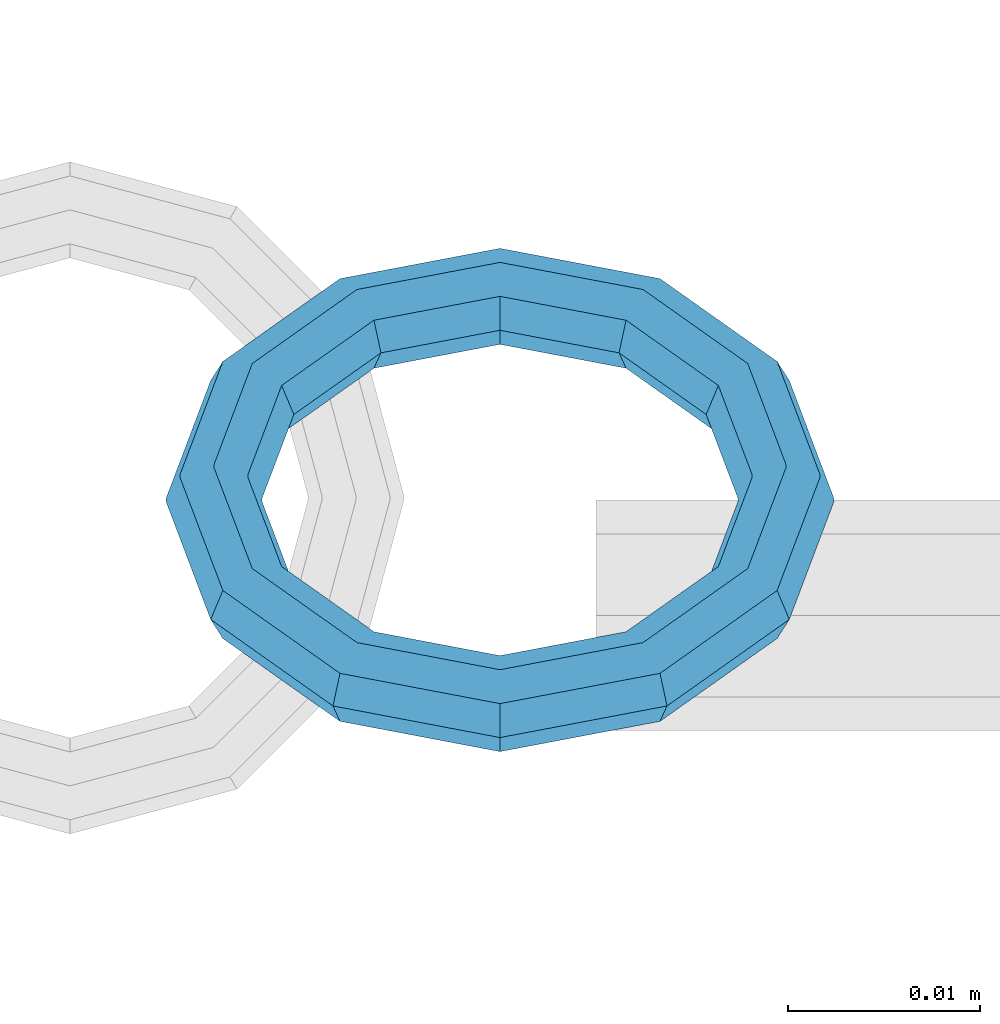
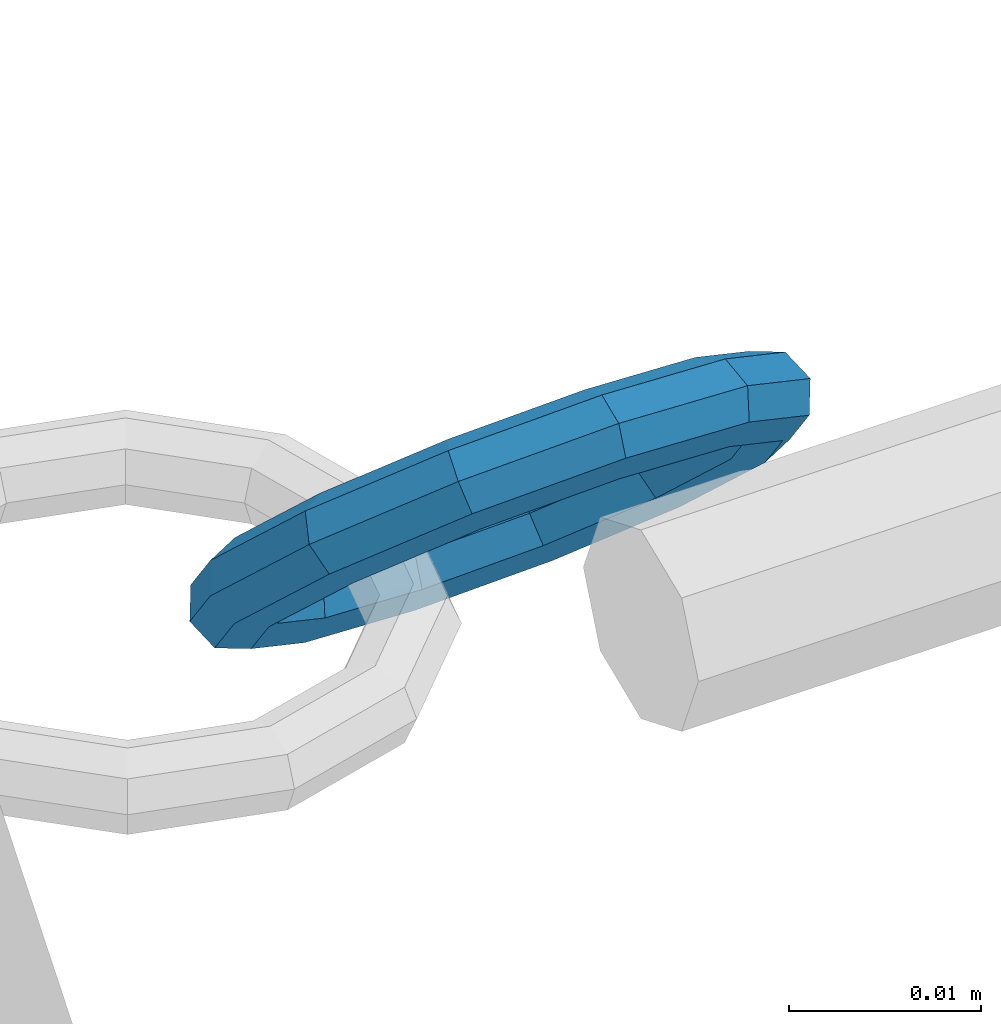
# One storey, part 91 of 91: 1 discrete accessory, 1 element without a shape of its own.
"""IFC2X3 building model written with IfcOpenShell, lengths in millimetres."""

import ifcopenshell
import ifcopenshell.guid

model = None  # the IFC model being written
_history = None  # IfcOwnerHistory: only IFC2X3 demands one
_inside = {}  # id of a spatial element -> (the spatial element, [elements in it])
_under = {}  # id of a project, library or spatial element -> (it, [spatial elements below it])
_declared = {}  # id of a project -> (the project, [libraries it declares])
_typed = {}  # id of a type object -> (the type object, [elements of that type])
_made_of = {}  # id of a material, layer set ... -> (it, [elements and type objects made of it])


def new_model(schema):
    """Start an empty IFC model of exactly this schema.

    Asked for "IFC4X3", IfcOpenShell would pick the latest addendum, in which some entities
    have other attributes; the version numbers below select the first issue.
    IFC2X3 requires an IfcOwnerHistory on every rooted entity: one is made here for all.
    """
    global model, _history
    if schema == "IFC4X3":
        model = ifcopenshell.file(schema_version=(4, 3, 0, 0))
    else:
        model = ifcopenshell.file(schema=schema)
    _inside.clear()
    _under.clear()
    _declared.clear()
    _typed.clear()
    _made_of.clear()
    _history = None
    if model.schema == "IFC2X3":
        org = make("IfcOrganization", Name="unknown")
        user = make(
            "IfcPersonAndOrganization",
            ThePerson=make("IfcPerson", FamilyName="unknown"),
            TheOrganization=org,
        )
        app = make(
            "IfcApplication",
            ApplicationDeveloper=org,
            Version="unknown",
            ApplicationFullName="unknown",
            ApplicationIdentifier="unknown",
        )
        _history = make(
            "IfcOwnerHistory",
            OwningUser=user,
            OwningApplication=app,
            ChangeAction="ADDED",
            CreationDate=0,
        )
    return model


def make(cls, **values):
    """One entity of the class cls with the attributes given. An attribute that is None is left unset."""
    return model.create_entity(
        cls, **{name: value for name, value in values.items() if value is not None}
    )


def rooted(cls, **values):
    """An entity with a GlobalId (a new one), such as an element, a storey or a relation."""
    return make(cls, GlobalId=ifcopenshell.guid.new(), OwnerHistory=_history, **values)


def si_unit(unit_type, name, prefix=None):
    """IfcSIUnit, for example si_unit("LENGTHUNIT", "METRE", prefix="MILLI")."""
    return make("IfcSIUnit", UnitType=unit_type, Prefix=prefix, Name=name)


def assignment(units):
    """IfcUnitAssignment: the units of a project."""
    return None if units is None else make("IfcUnitAssignment", Units=units)


def point(xyz):
    """IfcCartesianPoint."""
    return None if xyz is None else make("IfcCartesianPoint", Coordinates=xyz)


def direction(xyz):
    """IfcDirection."""
    return None if xyz is None else make("IfcDirection", DirectionRatios=xyz)


def frame(location, z_axis=None, x_axis=None):
    """IfcAxis2Placement3D, a coordinate frame: its origin and axes. An axis left out is left unset."""
    return make(
        "IfcAxis2Placement3D",
        Location=point(location),
        Axis=direction(z_axis),
        RefDirection=direction(x_axis),
    )


def origin_with_axes():
    """The frame at (0, 0, 0) with the z axis (0, 0, 1) and the x axis (1, 0, 0) written out."""
    return frame((0.0, 0.0, 0.0), z_axis=(0.0, 0.0, 1.0), x_axis=(1.0, 0.0, 0.0))


def place(relative_to, where):
    """IfcLocalPlacement: puts the frame where relative to a parent placement (None: the world)."""
    return make(
        "IfcLocalPlacement", PlacementRelTo=relative_to, RelativePlacement=where
    )


def context(
    kind, dimensions, precision=None, world=None, true_north=None, identifier=None
):
    """IfcGeometricRepresentationContext, for example the 3D "Model" context."""
    return make(
        "IfcGeometricRepresentationContext",
        ContextIdentifier=identifier,
        ContextType=kind,
        CoordinateSpaceDimension=dimensions,
        Precision=precision,
        WorldCoordinateSystem=world,
        TrueNorth=true_north,
    )


def subcontext(parent, identifier, kind, view, scale=None):
    """IfcGeometricRepresentationSubContext, for example "Body" below "Model"."""
    return make(
        "IfcGeometricRepresentationSubContext",
        ContextIdentifier=identifier,
        ContextType=kind,
        ParentContext=parent,
        TargetScale=scale,
        TargetView=view,
    )


def project(units=None, contexts=None):
    """IfcProject with its units and contexts."""
    return rooted(
        "IfcProject",
        Name="project",
        RepresentationContexts=contexts,
        UnitsInContext=assignment(units),
    )


def spatial(cls, under=None, at=None, **own):
    """A site, building, storey or space (cls), placed at a placement, below another one or the project."""
    s = rooted(cls, ObjectPlacement=at, **own)
    if under is not None:
        _under.setdefault(under.id(), (under, []))[1].append(s)
    return s


def faces_of(points, faces, orient=None, outer=None):
    """IfcFace entities. A face is a list of loops; a loop is a list of indices into points, from 0.

    orient and outer hold one flag for each loop. By default every Orientation is true, the
    first loop of a face is its IfcFaceOuterBound and the others are IfcFaceBound.
    """
    made = []
    for i, loops in enumerate(faces):
        bounds = []
        for j, loop in enumerate(loops):
            is_outer = j == 0 if outer is None else outer[i][j]
            bounds.append(
                make(
                    "IfcFaceOuterBound" if is_outer else "IfcFaceBound",
                    Bound=make("IfcPolyLoop", Polygon=[points[k] for k in loop]),
                    Orientation=True if orient is None else orient[i][j],
                )
            )
        made.append(make("IfcFace", Bounds=bounds))
    return made


def faceted_brep(points, faces, orient=None, outer=None, voids=None):
    """IfcFacetedBrep: a solid bounded by flat faces; with voids (closed shells), ...WithVoids."""
    shared = [point(p) for p in points]
    hull = make("IfcClosedShell", CfsFaces=faces_of(shared, faces, orient, outer))
    if voids is None:
        return make("IfcFacetedBrep", Outer=hull)
    return make(
        "IfcFacetedBrepWithVoids",
        Outer=hull,
        Voids=[
            make(cls, CfsFaces=faces_of(shared, fs, o, b)) for cls, fs, o, b in voids
        ],
    )


def shape(context_of_items, identifier, shape_type, items):
    """IfcShapeRepresentation: the items that make up one representation, for example the "Body"."""
    return make(
        "IfcShapeRepresentation",
        ContextOfItems=context_of_items,
        RepresentationIdentifier=identifier,
        RepresentationType=shape_type,
        Items=items,
    )


def material(Name=None, Category=None):
    """IfcMaterial."""
    return make("IfcMaterial", Name=Name, Category=Category)


def made_of(thing, what):
    """Note that an element or type object is made of a material, layer set ...; save() writes the relation."""
    if what is not None:
        _made_of.setdefault(what.id(), (what, []))[1].append(thing)
    return thing


def type_object(cls, material=None, **own):
    """A type object (cls), such as IfcWallType, which elements share."""
    return made_of(rooted(cls, **own), material)


def element(
    cls,
    number,
    at=None,
    inside=None,
    cuts=None,
    type_object=None,
    material=None,
    context=None,
    identifier="Body",
    shape_type=None,
    held_by="IfcProductDefinitionShape",
    body=None,
    shapes=None,
    **own,
):
    """One element of the class cls, such as IfcWall. Its Tag is "e" and its number.

    at: its placement. inside: the storey or other place that contains it. cuts: it is an
    opening in that element (IfcRelVoidsElement). A single representation is given by context,
    identifier, shape_type and body (its items); several are given by shapes. held_by: the class
    of the entity that holds the representations. save() writes the other relations.
    """
    e = rooted(cls, Tag="e%d" % number, ObjectPlacement=at, **own)
    if body is not None:
        shapes = [shape(context, identifier, shape_type, body)]
    if shapes is not None:
        e.Representation = make(held_by, Representations=shapes)
    if inside is not None:
        _inside.setdefault(inside.id(), (inside, []))[1].append(e)
    if cuts is not None:
        rooted(
            "IfcRelVoidsElement", RelatingBuildingElement=cuts, RelatedOpeningElement=e
        )
    if type_object is not None:
        _typed.setdefault(type_object.id(), (type_object, []))[1].append(e)
    return made_of(e, material)


def aggregate(whole, parts):
    """IfcRelAggregates: a whole, such as a stair, and the parts it consists of."""
    return rooted("IfcRelAggregates", RelatingObject=whole, RelatedObjects=parts)


def save(model, path):
    """Write the relations noted so far, then the file.

    IfcRelAggregates (storeys below a building ...), IfcRelContainedInSpatialStructure (elements
    in a storey), IfcRelDefinesByType, IfcRelAssociatesMaterial and IfcRelDeclares: one each for
    every whole, place, type object, material and project.
    """
    for whole, parts in _under.values():
        aggregate(whole, parts)
    for where, things in _inside.values():
        rooted(
            "IfcRelContainedInSpatialStructure",
            RelatedElements=things,
            RelatingStructure=where,
        )
    for kind, things in _typed.values():
        rooted("IfcRelDefinesByType", RelatedObjects=things, RelatingType=kind)
    for what, things in _made_of.values():
        rooted("IfcRelAssociatesMaterial", RelatedObjects=things, RelatingMaterial=what)
    for by, libraries in _declared.values():
        rooted("IfcRelDeclares", RelatingContext=by, RelatedDefinitions=libraries)
    model.write(path)


model = new_model("IFC2X3")

# Units and contexts
model_context = context("Model", 3, precision=1e-05, world=origin_with_axes())
body_context = subcontext(model_context, "Body", "Model", "MODEL_VIEW")
ifc_project = project(units=[si_unit("LENGTHUNIT", "METRE", prefix="MILLI"), si_unit("AREAUNIT", "SQUARE_METRE"), si_unit("VOLUMEUNIT", "CUBIC_METRE"), si_unit("MASSUNIT", "GRAM", prefix="KILO"), si_unit("TIMEUNIT", "SECOND"), si_unit("PLANEANGLEUNIT", "RADIAN"), si_unit("SOLIDANGLEUNIT", "STERADIAN"), si_unit("THERMODYNAMICTEMPERATUREUNIT", "DEGREE_CELSIUS"), si_unit("LUMINOUSINTENSITYUNIT", "LUMEN")], contexts=[model_context])

# Site, building, storey
site_placement = place(None, origin_with_axes())
site = spatial("IfcSite", under=ifc_project, at=site_placement, Name="Undefined", CompositionType="ELEMENT")
building_placement = place(site_placement, origin_with_axes())
building = spatial("IfcBuilding", under=site, at=building_placement, Name="Undefined", CompositionType="ELEMENT")
storey_placement = place(building_placement, origin_with_axes())
storey = spatial("IfcBuildingStorey", under=building, at=storey_placement, Name="Undefined", CompositionType="ELEMENT", Elevation=0.0)

# Assembly, discrete accessory
assembly_placement = place(storey_placement, origin_with_axes())
assembly = element("IfcElementAssembly", 1, at=assembly_placement, inside=storey, Name="PLATE", AssemblyPlace="NOTDEFINED", PredefinedType="RIGID_FRAME")
ifc_material = material(Name="STEEL/250")
discrete_accessory_type = type_object("IfcDiscreteAccessoryType", Name="LINK")
discrete_accessory_placement = place(assembly_placement, frame((-116339.653040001, 92767.5213131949, -16.6076052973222), z_axis=(0.0, -0.707106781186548, 0.707106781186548), x_axis=(1.0, 0.0, 0.0)))
discrete_accessory = element("IfcDiscreteAccessory", 2, at=discrete_accessory_placement, type_object=discrete_accessory_type, material=ifc_material, Name="LINK", ObjectType="D5", context=body_context, shape_type="Brep", body=[
    faceted_brep([(15.1008656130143, 1.76776701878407, 1.76776695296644), (21.666115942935, 1.76776691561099, 3.52715252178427), (22.5499994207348, 2.49999996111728, 1.99622143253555), (15.1008656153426, 2.50000006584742, -8.84483597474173e-11), (23.4338828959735, 1.76776691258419, 0.465290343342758), (15.1008670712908, 1.76776695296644, -1.76776695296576), (15.100865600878, -1.76776688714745, 1.76776695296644), (21.6661159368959, -1.76776699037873, 3.52715252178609), (21.2999994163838, -3.67290340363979e-08, 4.16128494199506), (15.1008656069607, 6.58183125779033e-08, 2.5), (15.1008655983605, -2.49999993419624, 0.0), (22.5499994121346, -2.50000003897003, 1.99622143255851), (15.100865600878, -1.76776688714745, -1.76776695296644), (23.4338828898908, -1.76776699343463, 0.465290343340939), (15.1000003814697, 0.0, -2.5), (23.7999994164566, -4.10655047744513e-08, -0.168842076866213), (25.8387142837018, -4.46161720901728e-08, 8.69999980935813), (26.4728467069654, 1.7677669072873, 8.33388328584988), (26.4728467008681, -1.76776699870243, 8.33388328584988), (28.0037777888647, -2.50000004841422, 7.44999980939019), (29.5347088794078, -1.76776700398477, 6.56611633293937), (30.1688413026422, -5.2081304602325e-08, 6.19999980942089), (29.5347088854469, 1.7677669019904, 6.56611633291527), (28.0037777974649, 2.49999995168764, 7.44999980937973), (28.2322322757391, 1.76776690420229, 14.8999996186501), (29.9999992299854, 2.49999994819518, 14.8999996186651), (27.4999992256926, -4.74974513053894e-08, 14.8999996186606), (28.2322322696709, -1.76776700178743, 14.8999996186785), (29.999999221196, -2.5000000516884, 14.8999996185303), (31.767766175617, -1.76776700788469, 14.8999996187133), (32.4999992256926, -5.6170392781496e-08, 14.8999996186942), (31.7677661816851, 1.76776689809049, 14.8999996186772), (29.9999992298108, 2.49999994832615, 15.1000003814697), (31.7677661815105, 1.76776689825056, 15.1000003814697), (32.4999992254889, -5.59666659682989e-08, 15.1000003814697), (31.7677661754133, -1.76776700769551, 15.1000003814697), (29.9999992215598, -2.50000005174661, 15.100000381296), (28.2322322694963, -1.76776700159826, 15.1000003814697), (27.4999992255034, -4.73810359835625e-08, 15.1000003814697), (28.232232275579, 1.76776690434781, 15.1000003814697), (26.4728467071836, 1.76776690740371, 21.666116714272), (28.0037777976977, 2.49999995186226, 22.5500001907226), (29.5347088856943, 1.76776690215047, 23.4338836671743), (30.1688413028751, -5.19503373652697e-08, 23.8000001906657), (29.5347088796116, -1.76776700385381, 23.4338836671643), (28.0037777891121, -2.50000004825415, 22.5500001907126), (26.4728467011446, -1.76776699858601, 21.6661167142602), (25.8387142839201, -4.44706529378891e-08, 21.3000001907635), (21.2999994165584, -3.6612618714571e-08, 25.8387150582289), (21.6661159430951, 1.76776691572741, 26.4728474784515), (21.6661159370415, -1.76776699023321, 26.4728474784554), (22.5499994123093, -2.50000003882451, 28.0037785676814), (23.43388289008, -1.76776699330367, 29.5347096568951), (23.7999994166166, -4.09199856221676e-08, 30.1688420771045), (23.433882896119, 1.76776691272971, 29.5347096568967), (22.5499994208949, 2.49999996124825, 28.0037785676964), (15.1008656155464, 2.50000006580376, 30.0), (15.1008670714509, 1.76776695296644, 28.2322330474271), (15.1008656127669, 1.76776701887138, 31.7677669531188), (15.1008656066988, 6.58183125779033e-08, 32.5000000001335), (15.1008656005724, -1.767766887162, 31.7677669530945), (15.1008655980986, -2.49999993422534, 30.0000000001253), (15.1008656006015, -1.76776688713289, 28.2322330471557), (15.1000003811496, -4.51109372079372e-10, 27.499999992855), (8.5347492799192, 1.76776704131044, 3.52715252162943), (8.90086579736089, 8.70786607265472e-08, 4.16128494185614), (8.53474926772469, -1.76776686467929, 3.52715252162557), (7.65086578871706, -2.49999990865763, 1.99622143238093), (6.76698231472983, -1.76776685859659, 0.465290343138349), (6.40086579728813, 9.5635186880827e-08, -0.168842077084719), (6.76698232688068, 1.76776704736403, 0.465290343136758), (7.65086580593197, 2.50000009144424, 1.99622143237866), (2.19708742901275, 2.50000011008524, 7.44999980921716), (3.72801851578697, 1.76776705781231, 8.33388328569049), (0.66615633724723, 1.76776706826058, 6.56611633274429), (0.032023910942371, 1.1743395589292e-07, 6.19999980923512), (0.666156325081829, -1.76776683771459, 6.5661163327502), (2.19708741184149, -2.49999988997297, 7.44999980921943), (3.72801850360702, -1.76776684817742, 8.33388328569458), (4.36215092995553, 1.02634658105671e-07, 8.69999980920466), (1.96863294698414, 1.7677670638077, 14.8999996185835), (2.70086598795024, 1.08309905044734e-07, 14.899999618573), (0.200865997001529, 2.50000011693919, 14.8999996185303), (-1.56690095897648, 1.76776707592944, 14.899999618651), (-2.29913401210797, 1.25408405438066e-07, 14.8999996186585), (-1.56690097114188, -1.76776683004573, 14.8999996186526), (0.200865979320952, -2.49999988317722, 14.8999996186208), (1.96863293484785, -1.76776684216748, 14.8999996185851), (2.7008659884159, 1.08382664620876e-07, 15.1000003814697), (1.96863293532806, -1.76776684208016, 15.1000003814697), (0.200865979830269, -2.49999988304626, 15.1000003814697), (-1.56690097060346, -1.76776682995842, 15.1000003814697), (-2.2991340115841, 1.25524820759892e-07, 15.1000003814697), (-1.56690095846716, 1.7677670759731, 15.1000003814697), (0.200865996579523, 2.50000011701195, 15.1000003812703), (1.96863294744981, 1.7677670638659, 15.1000003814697), (3.72801851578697, 1.76776705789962, 21.6661167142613), (4.36215092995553, 1.02707417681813e-07, 21.3000001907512), (3.72801850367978, -1.76776684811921, 21.6661167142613), (2.19708741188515, -2.49999988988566, 22.5500001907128), (0.666156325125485, -1.76776683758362, 23.43388366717), (0.0320239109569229, 1.17594026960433e-07, 23.8000001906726), (0.66615633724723, 1.76776706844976, 23.4338836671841), (2.19708742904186, 2.5000001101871, 22.5500001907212), (7.65086580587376, 2.50000009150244, 28.003778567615), (8.53474927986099, 1.76776704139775, 26.4728474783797), (6.76698232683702, 1.76776704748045, 29.5347096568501), (6.40086579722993, 9.57516022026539e-08, 30.1688420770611), (6.76698231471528, -1.76776685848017, 29.534709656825), (7.65086578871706, -2.49999990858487, 28.0037785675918), (8.53474926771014, -1.76776686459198, 26.4728474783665), (8.90086579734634, 8.71368683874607e-08, 25.8387150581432)], [[[0, 1, 2, 3]], [[3, 2, 4, 5]], [[6, 7, 8, 9]], [[10, 11, 7, 6]], [[12, 13, 11, 10]], [[14, 15, 13, 12]], [[5, 4, 15, 14]], [[9, 8, 1, 0]], [[8, 16, 17, 1]], [[7, 18, 16, 8]], [[11, 19, 18, 7]], [[13, 20, 19, 11]], [[15, 21, 20, 13]], [[4, 22, 21, 15]], [[2, 23, 22, 4]], [[1, 17, 23, 2]], [[17, 24, 25, 23]], [[16, 26, 24, 17]], [[18, 27, 26, 16]], [[19, 28, 27, 18]], [[20, 29, 28, 19]], [[21, 30, 29, 20]], [[22, 31, 30, 21]], [[23, 25, 31, 22]], [[31, 25, 32, 33]], [[30, 31, 33, 34]], [[29, 30, 34, 35]], [[28, 29, 35, 36]], [[27, 28, 36, 37]], [[26, 27, 37, 38]], [[24, 26, 38, 39]], [[25, 24, 39, 32]], [[32, 39, 40, 41]], [[33, 32, 41, 42]], [[34, 33, 42, 43]], [[35, 34, 43, 44]], [[36, 35, 44, 45]], [[37, 36, 45, 46]], [[38, 37, 46, 47]], [[39, 38, 47, 40]], [[47, 48, 49, 40]], [[46, 50, 48, 47]], [[45, 51, 50, 46]], [[44, 52, 51, 45]], [[43, 53, 52, 44]], [[42, 54, 53, 43]], [[41, 55, 54, 42]], [[40, 49, 55, 41]], [[56, 55, 49, 57]], [[58, 54, 55, 56]], [[59, 53, 54, 58]], [[60, 52, 53, 59]], [[61, 51, 52, 60]], [[62, 50, 51, 61]], [[63, 48, 50, 62]], [[57, 49, 48, 63]], [[64, 65, 9, 0]], [[65, 66, 6, 9]], [[66, 67, 10, 6]], [[67, 68, 12, 10]], [[68, 69, 14, 12]], [[69, 70, 5, 14]], [[70, 71, 3, 5]], [[71, 64, 0, 3]], [[71, 72, 73, 64]], [[70, 74, 72, 71]], [[69, 75, 74, 70]], [[68, 76, 75, 69]], [[67, 77, 76, 68]], [[66, 78, 77, 67]], [[65, 79, 78, 66]], [[64, 73, 79, 65]], [[73, 80, 81, 79]], [[72, 82, 80, 73]], [[74, 83, 82, 72]], [[75, 84, 83, 74]], [[76, 85, 84, 75]], [[77, 86, 85, 76]], [[78, 87, 86, 77]], [[79, 81, 87, 78]], [[87, 81, 88, 89]], [[86, 87, 89, 90]], [[85, 86, 90, 91]], [[84, 85, 91, 92]], [[83, 84, 92, 93]], [[82, 83, 93, 94]], [[80, 82, 94, 95]], [[81, 80, 95, 88]], [[88, 95, 96, 97]], [[89, 88, 97, 98]], [[90, 89, 98, 99]], [[91, 90, 99, 100]], [[92, 91, 100, 101]], [[93, 92, 101, 102]], [[94, 93, 102, 103]], [[95, 94, 103, 96]], [[103, 104, 105, 96]], [[102, 106, 104, 103]], [[101, 107, 106, 102]], [[100, 108, 107, 101]], [[99, 109, 108, 100]], [[98, 110, 109, 99]], [[97, 111, 110, 98]], [[96, 105, 111, 97]], [[111, 105, 57, 63]], [[110, 111, 63, 62]], [[109, 110, 62, 61]], [[108, 109, 61, 60]], [[107, 108, 60, 59]], [[106, 107, 59, 58]], [[104, 106, 58, 56]], [[105, 104, 56, 57]]]),
])
aggregate(assembly, [discrete_accessory])

save(model, "model.ifc")
